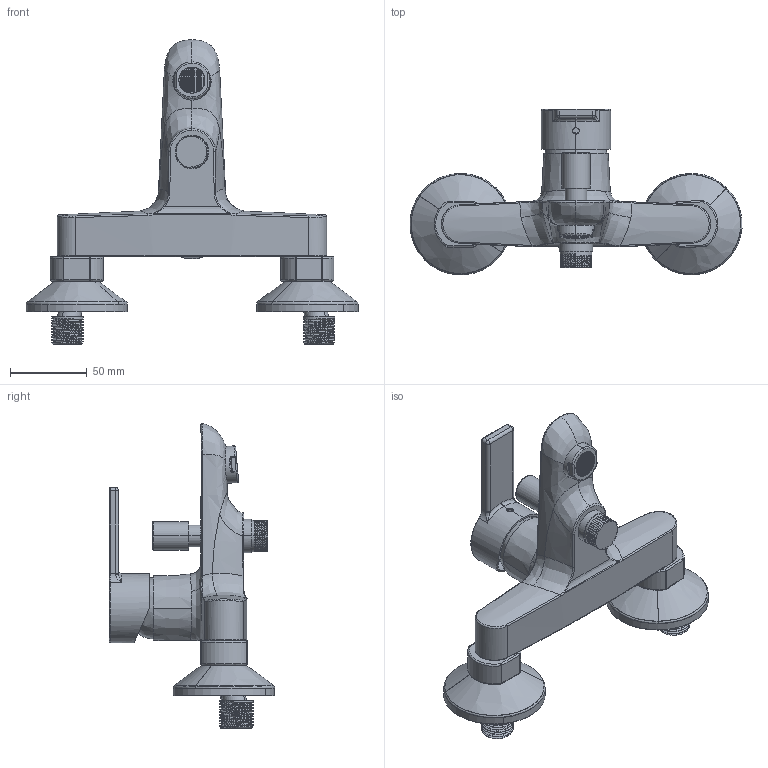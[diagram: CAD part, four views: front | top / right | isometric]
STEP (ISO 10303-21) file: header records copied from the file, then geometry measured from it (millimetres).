
FILE_DESCRIPTION (( 'STEP AP203' ), '1' );
FILE_NAME ('JAG22.STEP', '2019-07-29T07:55:28', ( '' ), ( '' ), 'SwSTEP 2.0', 'SolidWorks 2014', '' );
FILE_SCHEMA (( 'CONFIG_CONTROL_DESIGN' ));
Length unit declared in the file: millimetre
Products named in the file (12): JAG22; LM-1; N22-B02-2; N22-B03-1; ZT-1; ZT-2; ZT; N22-B03_1-1; MANIKO; LM_1-1; 1
Assembly tree (11 placements, depth 3):
  JAG22
    ZT
      ZT
      ZT-1
      ZT-2
    LM-1
    LM_1-1
    N22-B03-1
    N22-B03_1-1
    N22-B02-2
    1
    MANIKO
Bounding box: 215.8 x 107.4 x 197.94 mm (x, y, z)
Volume: 198438.6 mm3; surface area: 138394.1 mm2
Topology: 10 solids, 10 shells, 1540 faces, 3790 edges, 2487 vertices
Faces by surface type: plane 1045, cylinder 266, bspline 195, cone 23, torus 9, sphere 2
Entity records: 74395 total; most frequent: CARTESIAN_POINT 38545, ORIENTED_EDGE 7572, DIRECTION 6166, EDGE_CURVE 3786, VECTOR 2612, LINE 2612, VERTEX_POINT 2487, AXIS2_PLACEMENT_3D 1777
